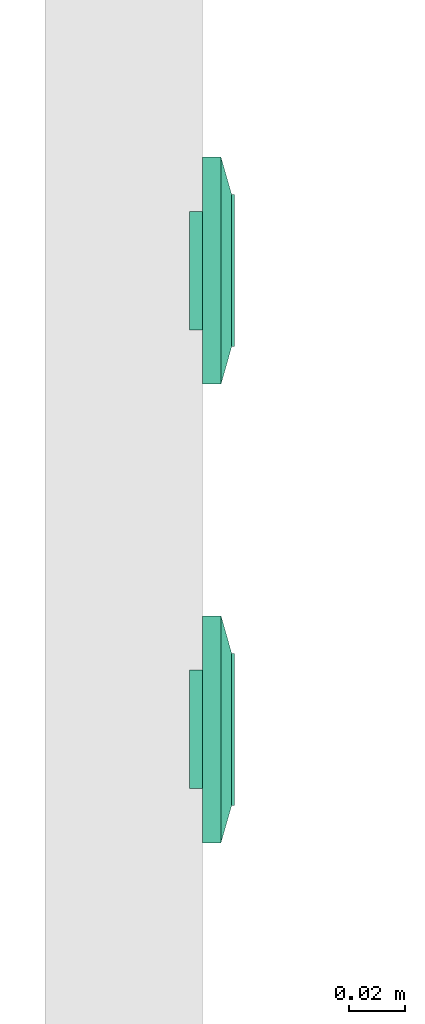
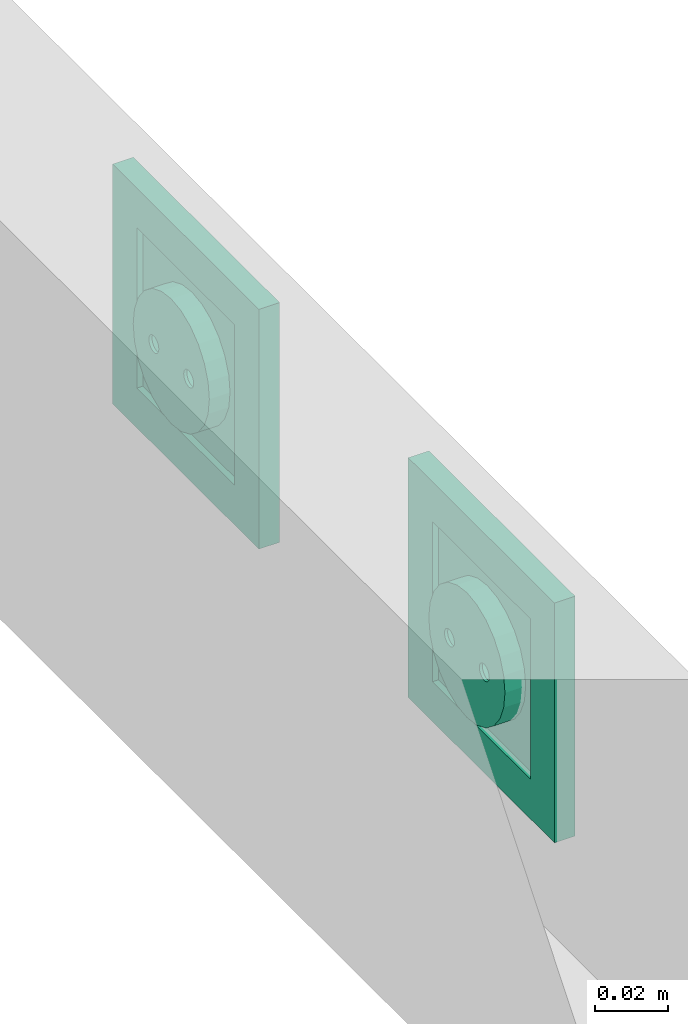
# One storey, part 25 of 166: 2 flow terminals.
"""IFC2X3 building model written with IfcOpenShell, lengths in metres."""

from ifc_helpers import new_model, entity, si_unit, converted_unit, derived_unit, direction, frame, origin, place, context, subcontext, project, spatial, face_set, surface_model, source, transform, mapped, type_object, type_shapes, element, save


model = new_model("IFC2X3")

# Units and contexts
model_context = context("Model", 3, precision=1e-05, world=origin(), true_north=direction((6.12303176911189e-17, 1.0)))
body_context = subcontext(model_context, "Body", "Model", "MODEL_VIEW")
ifc_project = project(units=[si_unit("LENGTHUNIT", "METRE"), si_unit("AREAUNIT", "SQUARE_METRE"), si_unit("VOLUMEUNIT", "CUBIC_METRE"), converted_unit("PLANEANGLEUNIT", "DEGREE", entity("IfcRatioMeasure", 0.0174532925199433), si_unit("PLANEANGLEUNIT", "RADIAN"), dimensions=[0, 0, 0, 0, 0, 0, 0]), si_unit("MASSUNIT", "GRAM", prefix="KILO"), derived_unit("MASSDENSITYUNIT", [(si_unit("MASSUNIT", "GRAM", prefix="KILO"), 1), (si_unit("LENGTHUNIT", "METRE"), -3)]), si_unit("TIMEUNIT", "SECOND"), si_unit("FREQUENCYUNIT", "HERTZ"), si_unit("THERMODYNAMICTEMPERATUREUNIT", "DEGREE_CELSIUS"), derived_unit("THERMALTRANSMITTANCEUNIT", [(si_unit("MASSUNIT", "GRAM", prefix="KILO"), 1), (si_unit("THERMODYNAMICTEMPERATUREUNIT", "KELVIN"), -1), (si_unit("TIMEUNIT", "SECOND"), -3)]), derived_unit("VOLUMETRICFLOWRATEUNIT", [(si_unit("LENGTHUNIT", "METRE"), 3), (si_unit("TIMEUNIT", "SECOND"), -1)]), si_unit("ELECTRICCURRENTUNIT", "AMPERE"), si_unit("ELECTRICVOLTAGEUNIT", "VOLT"), si_unit("POWERUNIT", "WATT"), si_unit("FORCEUNIT", "NEWTON"), si_unit("ILLUMINANCEUNIT", "LUX"), si_unit("LUMINOUSFLUXUNIT", "LUMEN"), si_unit("LUMINOUSINTENSITYUNIT", "CANDELA"), derived_unit("USERDEFINED", [(si_unit("MASSUNIT", "GRAM", prefix="KILO"), -1), (si_unit("LENGTHUNIT", "METRE"), -2), (si_unit("TIMEUNIT", "SECOND"), 3), (si_unit("LUMINOUSFLUXUNIT", "LUMEN"), 1)]), derived_unit("LINEARVELOCITYUNIT", [(si_unit("LENGTHUNIT", "METRE"), 1), (si_unit("TIMEUNIT", "SECOND"), -1)]), si_unit("PRESSUREUNIT", "PASCAL"), derived_unit("USERDEFINED", [(si_unit("LENGTHUNIT", "METRE"), -2), (si_unit("MASSUNIT", "GRAM", prefix="KILO"), 1), (si_unit("TIMEUNIT", "SECOND"), -2)])], contexts=[model_context])

# Site, building, storey
site_placement = place(None, origin())
site = spatial("IfcSite", under=ifc_project, at=site_placement, Name="Default", CompositionType="ELEMENT")
building_placement = place(site_placement, origin())
building = spatial("IfcBuilding", under=site, at=building_placement, CompositionType="ELEMENT")
storey_placement = place(building_placement, frame((0.0, 0.0, 4.27)))
storey = spatial("IfcBuildingStorey", under=building, at=storey_placement, Name="01", CompositionType="ELEMENT", Elevation=4.27)

# Flow terminals
light_fixture_type = type_object("IfcLightFixtureType", Name="PC IP20", PredefinedType="NOTDEFINED")
shared_shape = source(origin(), body_context, "Body", "SurfaceModel", [
    surface_model("IfcFaceBasedSurfaceModel", [(-0.00225000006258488, 0.0127499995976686, 0.00949633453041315), (0.0, 0.0104999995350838, 0.00949633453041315), (0.0, 0.0115376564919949, 0.0101656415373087), (0.0, 0.0139623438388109, 0.0101656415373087), (0.0, 0.0144589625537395, 0.00984531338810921), (0.0, 0.0121178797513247, 0.0102778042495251), (0.0, 0.0133821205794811, 0.0102778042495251), (0.0, 0.0127499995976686, 0.010399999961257), (0.0, 0.0149999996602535, 0.00949633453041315), (0.00225000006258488, 0.0127499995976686, 0.00949633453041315), (0.0, 0.0110410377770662, 0.00984531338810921), (0.0, 0.0127499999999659, 0.00949633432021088), (0.00225000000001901, 0.0127499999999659, 0.00949633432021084), (0.00217333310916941, 0.0121676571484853, 0.00949633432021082), (0.00194855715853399, 0.0116249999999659, 0.00949633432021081), (0.00159099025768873, 0.0111590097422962, 0.00949633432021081), (0.001125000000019, 0.010801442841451, 0.00949633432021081), (0.00058234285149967, 0.0105766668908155, 0.00949633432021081), (0.0, 0.0104999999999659, 0.00949633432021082), (-0.000582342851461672, 0.0105766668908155, 0.00949633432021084), (-0.001124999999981, 0.010801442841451, 0.00949633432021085), (-0.00159099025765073, 0.0111590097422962, 0.00949633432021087), (-0.00194855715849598, 0.011624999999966, 0.00949633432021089), (-0.0021733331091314, 0.0121676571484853, 0.00949633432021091), (-0.00224999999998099, 0.012749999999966, 0.00949633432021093), (-0.00217333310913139, 0.0133323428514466, 0.00949633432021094), (-0.00194855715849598, 0.013874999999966, 0.00949633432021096), (-0.00159099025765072, 0.0143409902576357, 0.00949633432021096), (-0.00112499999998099, 0.0146985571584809, 0.00949633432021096), (-0.00058234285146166, 0.0149233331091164, 0.00949633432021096), (0.0, 0.0149999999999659, 0.00949633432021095), (0.000582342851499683, 0.0149233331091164, 0.00949633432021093), (0.00112500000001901, 0.0146985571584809, 0.00949633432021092), (0.00159099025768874, 0.0143409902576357, 0.00949633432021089), (0.001948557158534, 0.0138749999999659, 0.00949633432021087), (0.00217333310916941, 0.0133323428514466, 0.00949633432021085), (0.00225000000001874, 0.0127499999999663, -0.00360000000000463), (0.00217333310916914, 0.0121676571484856, -0.00360000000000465), (0.00194855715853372, 0.0116249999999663, -0.00360000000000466), (0.00159099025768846, 0.0111590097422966, -0.00360000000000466), (0.00112500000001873, 0.0108014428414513, -0.00360000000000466), (0.000582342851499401, 0.0105766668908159, -0.00360000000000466), (0.0, 0.0104999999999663, -0.00360000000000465), (-0.000582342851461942, 0.0105766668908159, -0.00360000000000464), (-0.00112499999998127, 0.0108014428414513, -0.00360000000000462), (-0.001590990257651, 0.0111590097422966, -0.0036000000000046), (-0.00194855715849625, 0.0116249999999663, -0.00360000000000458), (-0.00217333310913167, 0.0121676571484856, -0.00360000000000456), (-0.00224999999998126, 0.0127499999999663, -0.00360000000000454), (-0.00217333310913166, 0.013332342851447, -0.00360000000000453), (-0.00194855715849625, 0.0138749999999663, -0.00360000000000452), (-0.00159099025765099, 0.014340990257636, -0.00360000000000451), (-0.00112499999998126, 0.0146985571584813, -0.00360000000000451), (-0.000582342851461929, 0.0149233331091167, -0.00360000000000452), (0.0, 0.0149999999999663, -0.00360000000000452), (0.000582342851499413, 0.0149233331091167, -0.00360000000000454), (0.00112500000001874, 0.0146985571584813, -0.00360000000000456), (0.00159099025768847, 0.014340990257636, -0.00360000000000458), (0.00194855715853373, 0.0138749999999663, -0.0036000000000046), (0.00217333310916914, 0.013332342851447, -0.00360000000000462), (0.0270000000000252, 0.026999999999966, 0.0113999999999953), (-0.0269999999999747, 0.026999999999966, 0.0113999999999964), (-0.0269999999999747, -0.0270000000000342, 0.0113999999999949), (0.0270000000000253, -0.0270000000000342, 0.0113999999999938), (-0.0199999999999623, 0.0, 0.0113999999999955), (-0.0193185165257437, -0.00517638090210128, 0.0113999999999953), (-0.0173205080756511, -0.0100000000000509, 0.0113999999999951), (-0.0141421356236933, -0.0141421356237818, 0.011399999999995), (-0.00999999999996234, -0.0173205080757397, 0.0113999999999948), (-0.00517638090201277, -0.0193185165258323, 0.0113999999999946), (0.0, -0.0200000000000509, 0.0113999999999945), (0.00517638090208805, -0.0193185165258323, 0.0113999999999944), (0.0100000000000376, -0.0173205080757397, 0.0113999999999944), (0.0141421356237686, -0.0141421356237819, 0.0113999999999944), (0.0173205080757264, -0.010000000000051, 0.0113999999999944), (0.0193185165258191, -0.00517638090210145, 0.0113999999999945), (0.0200000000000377, 0.0, 0.0113999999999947), (0.0193185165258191, 0.00517638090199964, 0.0113999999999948), (0.0173205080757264, 0.0099999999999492, 0.011399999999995), (0.0141421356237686, 0.0141421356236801, 0.0113999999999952), (0.0100000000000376, 0.0173205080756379, 0.0113999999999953), (0.00517638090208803, 0.0193185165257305, 0.0113999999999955), (0.0, 0.0199999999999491, 0.0113999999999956), (-0.00517638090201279, 0.0193185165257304, 0.0113999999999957), (-0.00999999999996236, 0.0173205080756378, 0.0113999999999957), (-0.0141421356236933, 0.01414213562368, 0.0113999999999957), (-0.0173205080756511, 0.00999999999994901, 0.0113999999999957), (-0.0193185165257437, 0.00517638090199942, 0.0113999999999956), (0.0270000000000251, 0.0269999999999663, 0.00199999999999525), (0.0270000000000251, -0.0270000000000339, 0.00199999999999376), (-0.0269999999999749, -0.0270000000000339, 0.00199999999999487), (-0.0269999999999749, 0.0269999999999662, 0.00199999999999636), (0.0210000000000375, 0.0, 0.00199999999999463), (0.0202844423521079, -0.00543519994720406, 0.00199999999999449), (0.0181865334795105, -0.0105000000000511, 0.0019999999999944), (0.0148492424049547, -0.0148492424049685, 0.00199999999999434), (0.0105000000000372, -0.0181865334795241, 0.00199999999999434), (0.0054351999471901, -0.0202844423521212, 0.00199999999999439), (0.0, -0.0210000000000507, 0.00199999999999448), (-0.00543519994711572, -0.020284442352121, 0.00199999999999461), (-0.0104999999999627, -0.0181865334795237, 0.00199999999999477), (-0.0148492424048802, -0.014849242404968, 0.00199999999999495), (-0.0181865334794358, -0.0105000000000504, 0.00199999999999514), (-0.020284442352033, -0.00543519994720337, 0.00199999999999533), (-0.0209999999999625, 0.0, 0.00199999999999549), (-0.0202844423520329, 0.0054351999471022, 0.00199999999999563), (-0.0181865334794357, 0.0104999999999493, 0.00199999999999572), (-0.01484924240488, 0.0148492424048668, 0.00199999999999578), (-0.0104999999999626, 0.0181865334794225, 0.00199999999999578), (-0.00543519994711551, 0.0202844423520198, 0.00199999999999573), (0.0, 0.0209999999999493, 0.00199999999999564), (0.00543519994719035, 0.0202844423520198, 0.00199999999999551), (0.0105000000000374, 0.0181865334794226, 0.00199999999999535), (0.0148492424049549, 0.0148492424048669, 0.00199999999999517), (0.0181865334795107, 0.0104999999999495, 0.00199999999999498), (0.0202844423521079, 0.00543519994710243, 0.00199999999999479), (0.0200000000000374, 0.0, -0.00360000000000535), (0.0193185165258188, -0.00517638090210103, -0.00360000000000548), (0.0173205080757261, -0.0100000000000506, -0.00360000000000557), (0.0141421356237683, -0.0141421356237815, -0.00360000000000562), (0.0100000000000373, -0.0173205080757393, -0.00360000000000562), (0.00517638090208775, -0.0193185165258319, -0.00360000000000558), (0.0, -0.0200000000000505, -0.00360000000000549), (-0.00517638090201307, -0.0193185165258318, -0.00360000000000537), (-0.00999999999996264, -0.0173205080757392, -0.00360000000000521), (-0.0141421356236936, -0.0141421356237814, -0.00360000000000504), (-0.0173205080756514, -0.0100000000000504, -0.00360000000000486), (-0.019318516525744, -0.00517638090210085, -0.00360000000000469), (-0.0199999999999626, 0.0, -0.00360000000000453), (-0.0193185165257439, 0.00517638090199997, -0.0036000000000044), (-0.0173205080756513, 0.00999999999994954, -0.00360000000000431), (-0.0141421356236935, 0.0141421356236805, -0.00360000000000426), (-0.00999999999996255, 0.0173205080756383, -0.00360000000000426), (-0.00517638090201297, 0.0193185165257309, -0.0036000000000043), (0.0, 0.0199999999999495, -0.00360000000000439), (0.00517638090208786, 0.0193185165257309, -0.00360000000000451), (0.0100000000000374, 0.0173205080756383, -0.00360000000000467), (0.0141421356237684, 0.0141421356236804, -0.00360000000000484), (0.0173205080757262, 0.0099999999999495, -0.00360000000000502), (0.0193185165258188, 0.00517638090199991, -0.00360000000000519), (-0.0123499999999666, 0.0, -0.00360000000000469), (-0.0122562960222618, -0.000711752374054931, -0.00360000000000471), (-0.0119815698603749, -0.00137500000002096, -0.00360000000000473), (-0.0115445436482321, -0.00194454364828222, -0.00360000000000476), (-0.0109749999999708, -0.00238156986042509, -0.00360000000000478), (-0.0103117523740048, -0.00265629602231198, -0.0036000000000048), (-0.00959999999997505, -0.00275000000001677, -0.00360000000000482), (-0.0088882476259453, -0.00265629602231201, -0.00360000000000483), (-0.00822499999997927, -0.00238156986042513, -0.00360000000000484), (-0.00765545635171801, -0.00194454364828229, -0.00360000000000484), (-0.00721843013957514, -0.00137500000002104, -0.00360000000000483), (-0.00694370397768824, -0.000711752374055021, -0.00360000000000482), (-0.00684999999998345, 0.0, -0.0036000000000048), (-0.00694370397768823, 0.000711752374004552, -0.00360000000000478), (-0.00721843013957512, 0.00137499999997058, -0.00360000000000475), (-0.00765545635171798, 0.00194454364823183, -0.00360000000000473), (-0.00822499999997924, 0.00238156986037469, -0.0036000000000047), (-0.00888824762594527, 0.00265629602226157, -0.00360000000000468), (-0.00959999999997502, 0.00274999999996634, -0.00360000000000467), (-0.0103117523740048, 0.00265629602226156, -0.00360000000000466), (-0.0109749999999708, 0.00238156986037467, -0.00360000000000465), (-0.011544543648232, 0.00194454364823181, -0.00360000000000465), (-0.0119815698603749, 0.00137499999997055, -0.00360000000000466), (-0.0122562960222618, 0.000711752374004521, -0.00360000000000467), (0.00685000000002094, 0.0, -0.00360000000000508), (0.0069437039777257, -0.00071175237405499, -0.0036000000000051), (0.00721843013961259, -0.00137500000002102, -0.00360000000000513), (0.00765545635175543, -0.00194454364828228, -0.00360000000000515), (0.00822500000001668, -0.00238156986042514, -0.00360000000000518), (0.00888824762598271, -0.00265629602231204, -0.0036000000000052), (0.00960000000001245, -0.00275000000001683, -0.00360000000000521), (0.0103117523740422, -0.00265629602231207, -0.00360000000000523), (0.0109750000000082, -0.00238156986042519, -0.00360000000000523), (0.0115445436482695, -0.00194454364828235, -0.00360000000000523), (0.0119815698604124, -0.0013750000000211, -0.00360000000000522), (0.0122562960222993, -0.00071175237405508, -0.00360000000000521), (0.012350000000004, 0.0, -0.00360000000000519), (0.0122562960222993, 0.000711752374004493, -0.00360000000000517), (0.0119815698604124, 0.00137499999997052, -0.00360000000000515), (0.0115445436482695, 0.00194454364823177, -0.00360000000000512), (0.0109750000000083, 0.00238156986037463, -0.0036000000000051), (0.0103117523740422, 0.00265629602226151, -0.00360000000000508), (0.00960000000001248, 0.00274999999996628, -0.00360000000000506), (0.00888824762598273, 0.0026562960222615, -0.00360000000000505), (0.0082250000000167, 0.00238156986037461, -0.00360000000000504), (0.00765545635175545, 0.00194454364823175, -0.00360000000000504), (0.0072184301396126, 0.00137499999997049, -0.00360000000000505), (0.00694370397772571, 0.000711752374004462, -0.00360000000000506), (0.0210000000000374, 0.0, -0.00460000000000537), (0.0202844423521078, -0.00543519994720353, -0.00460000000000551), (0.0181865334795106, -0.0105000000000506, -0.0046000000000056), (0.0148492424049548, -0.0148492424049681, -0.00460000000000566), (0.0105000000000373, -0.0181865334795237, -0.00460000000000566), (0.00543519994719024, -0.0202844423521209, -0.00460000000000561), (0.0, -0.0210000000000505, -0.00460000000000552), (-0.00543519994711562, -0.0202844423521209, -0.00460000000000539), (-0.0104999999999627, -0.0181865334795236, -0.00460000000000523), (-0.0148492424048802, -0.0148492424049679, -0.00460000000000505), (-0.0181865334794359, -0.0105000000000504, -0.00460000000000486), (-0.0202844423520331, -0.00543519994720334, -0.00460000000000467), (-0.0209999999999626, 0.0, -0.00460000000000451), (-0.020284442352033, 0.00543519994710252, -0.00460000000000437), (-0.0181865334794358, 0.0104999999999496, -0.00460000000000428), (-0.0148492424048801, 0.0148492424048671, -0.00460000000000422), (-0.0104999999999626, 0.0181865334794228, -0.00460000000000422), (-0.00543519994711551, 0.02028444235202, -0.00460000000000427), (0.0, 0.0209999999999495, -0.00460000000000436), (0.00543519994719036, 0.02028444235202, -0.00460000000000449), (0.0105000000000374, 0.0181865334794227, -0.00460000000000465), (0.0148492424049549, 0.014849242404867, -0.00460000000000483), (0.0181865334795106, 0.0104999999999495, -0.00460000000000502), (0.0202844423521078, 0.00543519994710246, -0.00460000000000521), (-0.00684999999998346, 0.0, -0.0046000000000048), (-0.00694370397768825, 0.000711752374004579, -0.00460000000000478), (-0.00721843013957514, 0.00137499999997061, -0.00460000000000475), (-0.007655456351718, 0.00194454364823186, -0.00460000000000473), (-0.00822499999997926, 0.00238156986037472, -0.0046000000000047), (-0.00888824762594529, 0.0026562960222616, -0.00460000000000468), (-0.00959999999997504, 0.00274999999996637, -0.00460000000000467), (-0.0103117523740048, 0.00265629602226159, -0.00460000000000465), (-0.0109749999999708, 0.0023815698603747, -0.00460000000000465), (-0.0115445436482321, 0.00194454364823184, -0.00460000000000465), (-0.0119815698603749, 0.00137499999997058, -0.00460000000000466), (-0.0122562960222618, 0.000711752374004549, -0.00460000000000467), (-0.0123499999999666, 0.0, -0.00460000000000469), (-0.0122562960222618, -0.000711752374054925, -0.00460000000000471), (-0.0119815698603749, -0.00137500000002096, -0.00460000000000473), (-0.0115445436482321, -0.00194454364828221, -0.00460000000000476), (-0.0109749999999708, -0.00238156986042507, -0.00460000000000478), (-0.0103117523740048, -0.00265629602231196, -0.0046000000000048), (-0.00959999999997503, -0.00275000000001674, -0.00460000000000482), (-0.00888824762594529, -0.00265629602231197, -0.00460000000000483), (-0.00822499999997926, -0.00238156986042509, -0.00460000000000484), (-0.007655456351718, -0.00194454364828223, -0.00460000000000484), (-0.00721843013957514, -0.00137500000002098, -0.00460000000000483), (-0.00694370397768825, -0.000711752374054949, -0.00460000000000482), (0.012350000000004, 0.0, -0.00460000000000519), (0.0122562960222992, 0.000711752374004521, -0.00460000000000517), (0.0119815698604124, 0.00137499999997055, -0.00460000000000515), (0.0115445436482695, 0.0019445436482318, -0.00460000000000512), (0.0109750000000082, 0.00238156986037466, -0.0046000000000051), (0.0103117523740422, 0.00265629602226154, -0.00460000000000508), (0.00960000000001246, 0.00274999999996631, -0.00460000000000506), (0.00888824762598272, 0.00265629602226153, -0.00460000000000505), (0.00822500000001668, 0.00238156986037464, -0.00460000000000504), (0.00765545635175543, 0.00194454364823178, -0.00460000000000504), (0.00721843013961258, 0.00137499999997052, -0.00460000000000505), (0.00694370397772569, 0.00071175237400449, -0.00460000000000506), (0.00685000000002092, 0.0, -0.00460000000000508), (0.00694370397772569, -0.000711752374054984, -0.0046000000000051), (0.00721843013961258, -0.00137500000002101, -0.00460000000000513), (0.00765545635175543, -0.00194454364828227, -0.00460000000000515), (0.00822500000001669, -0.00238156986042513, -0.00460000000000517), (0.00888824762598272, -0.00265629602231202, -0.0046000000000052), (0.00960000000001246, -0.0027500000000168, -0.00460000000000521), (0.0103117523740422, -0.00265629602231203, -0.00460000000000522), (0.0109750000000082, -0.00238156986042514, -0.00460000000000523), (0.0115445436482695, -0.00194454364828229, -0.00460000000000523), (0.0119815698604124, -0.00137500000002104, -0.00460000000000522), (0.0122562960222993, -0.000711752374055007, -0.00460000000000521), (0.040350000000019, 0.0403499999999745, 0.00659999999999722), (0.040350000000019, -0.0403500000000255, 0.00659999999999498), (-0.0403499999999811, -0.0403500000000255, 0.00659999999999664), (-0.0403499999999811, 0.0403499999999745, 0.00659999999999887), (0.027000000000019, 0.0269999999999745, 0.00659999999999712), (-0.0269999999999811, 0.0269999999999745, 0.00659999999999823), (-0.026999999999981, -0.0270000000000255, 0.00659999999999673), (0.027000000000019, -0.0270000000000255, 0.00659999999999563), (0.027000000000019, 0.0269999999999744, 0.0103999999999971), (-0.026999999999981, 0.0269999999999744, 0.0103999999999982), (-0.026999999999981, -0.0270000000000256, 0.0103999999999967), (0.027000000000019, -0.0270000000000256, 0.0103999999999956), (0.040350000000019, 0.0403499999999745, 0.00659999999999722), (0.040350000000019, -0.0403500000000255, 0.00659999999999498), (-0.0403499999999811, -0.0403500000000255, 0.00659999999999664), (-0.0403499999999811, 0.0403499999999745, 0.00659999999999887), (-0.0269999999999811, 0.0269999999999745, 0.00659999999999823), (-0.0269999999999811, -0.0270000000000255, 0.00659999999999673), (0.0270000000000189, -0.0270000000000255, 0.00659999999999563), (0.0270000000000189, 0.0269999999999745, 0.00659999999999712), (0.0403500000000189, 0.0403499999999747, 0.0), (0.0403500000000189, -0.0403500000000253, 0.0), (-0.0403499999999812, -0.0403500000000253, 0.0), (-0.0403499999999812, 0.0403499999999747, 0.0), (0.0270000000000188, 0.0269999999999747, 0.0), (-0.0269999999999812, 0.0269999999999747, 0.0), (-0.0269999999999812, -0.0270000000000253, 0.0), (0.0270000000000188, -0.0270000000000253, 0.0)], [face_set([[[0, 1, 2]], [[3, 4, 2, 5]], [[6, 3, 5, 7]], [[2, 4, 0]], [[4, 8, 0]], [[3, 9, 8]], [[1, 9, 10]], [[2, 3, 6, 7]], [[3, 10, 9]], [[2, 10, 3]], [[11, 1, 0, 8]], [[11, 8, 9, 1]]]), face_set([[[12, 13, 14, 15, 16, 17, 18, 19, 20, 21, 22, 23, 24, 25, 26, 27, 28, 29, 30, 31, 32, 33, 34, 35]], [[36, 37, 38, 39, 40, 41, 42, 43, 44, 45, 46, 47, 48, 49, 50, 51, 52, 53, 54, 55, 56, 57, 58, 59]], [[48, 47, 23, 24]], [[47, 46, 22, 23]], [[45, 44, 20, 21]], [[46, 45, 21, 22]], [[44, 43, 19, 20]], [[18, 19, 43, 42]], [[42, 41, 17, 18]], [[41, 40, 16, 17]], [[39, 38, 14, 15]], [[40, 39, 15, 16]], [[38, 37, 13, 14]], [[12, 13, 37, 36]], [[36, 59, 35, 12]], [[59, 58, 34, 35]], [[57, 56, 32, 33]], [[58, 57, 33, 34]], [[56, 55, 31, 32]], [[30, 31, 55, 54]], [[54, 53, 29, 30]], [[53, 52, 28, 29]], [[51, 50, 26, 27]], [[52, 51, 27, 28]], [[50, 49, 25, 26]], [[24, 25, 49, 48]]]), face_set([[[60, 61, 62, 63], [64, 65, 66, 67, 68, 69, 70, 71, 72, 73, 74, 75, 76, 77, 78, 79, 80, 81, 82, 83, 84, 85, 86, 87]], [[88, 89, 90, 91], [92, 93, 94, 95, 96, 97, 98, 99, 100, 101, 102, 103, 104, 105, 106, 107, 108, 109, 110, 111, 112, 113, 114, 115]], [[61, 60, 88, 91]], [[62, 61, 91, 90]], [[63, 62, 90, 89]], [[60, 63, 89, 88]], [[116, 117, 118, 119, 120, 121, 122, 123, 124, 125, 126, 127, 128, 129, 130, 131, 132, 133, 134, 135, 136, 137, 138, 139], [140, 141, 142, 143, 144, 145, 146, 147, 148, 149, 150, 151, 152, 153, 154, 155, 156, 157, 158, 159, 160, 161, 162, 163], [164, 165, 166, 167, 168, 169, 170, 171, 172, 173, 174, 175, 176, 177, 178, 179, 180, 181, 182, 183, 184, 185, 186, 187]], [[64, 128, 127, 65]], [[65, 127, 126, 66]], [[67, 125, 124, 68]], [[66, 126, 125, 67]], [[68, 124, 123, 69]], [[122, 70, 69, 123]], [[70, 122, 121, 71]], [[71, 121, 120, 72]], [[73, 119, 118, 74]], [[72, 120, 119, 73]], [[74, 118, 117, 75]], [[116, 76, 75, 117]], [[76, 116, 139, 77]], [[77, 139, 138, 78]], [[79, 137, 136, 80]], [[78, 138, 137, 79]], [[80, 136, 135, 81]], [[134, 82, 81, 135]], [[82, 134, 133, 83]], [[83, 133, 132, 84]], [[84, 132, 131, 85]], [[85, 131, 130, 86]], [[130, 129, 87, 86]], [[64, 87, 129, 128]], [[188, 189, 190, 191, 192, 193, 194, 195, 196, 197, 198, 199, 200, 201, 202, 203, 204, 205, 206, 207, 208, 209, 210, 211], [212, 213, 214, 215, 216, 217, 218, 219, 220, 221, 222, 223, 224, 225, 226, 227, 228, 229, 230, 231, 232, 233, 234, 235], [236, 237, 238, 239, 240, 241, 242, 243, 244, 245, 246, 247, 248, 249, 250, 251, 252, 253, 254, 255, 256, 257, 258, 259]], [[200, 199, 103, 104]], [[199, 198, 102, 103]], [[197, 196, 100, 101]], [[198, 197, 101, 102]], [[196, 195, 99, 100]], [[98, 99, 195, 194]], [[194, 193, 97, 98]], [[193, 192, 96, 97]], [[191, 190, 94, 95]], [[192, 191, 95, 96]], [[190, 189, 93, 94]], [[92, 93, 189, 188]], [[188, 211, 115, 92]], [[211, 210, 114, 115]], [[209, 208, 112, 113]], [[210, 209, 113, 114]], [[208, 207, 111, 112]], [[110, 111, 207, 206]], [[206, 205, 109, 110]], [[205, 204, 108, 109]], [[203, 202, 106, 107]], [[204, 203, 107, 108]], [[202, 201, 105, 106]], [[104, 105, 201, 200]], [[141, 225, 226, 142]], [[140, 224, 225, 141]], [[144, 228, 229, 145]], [[143, 227, 228, 144]], [[142, 226, 227, 143]], [[230, 146, 145, 229]], [[149, 233, 232, 148]], [[148, 232, 231, 147]], [[152, 212, 235, 151]], [[151, 235, 234, 150]], [[150, 234, 233, 149]], [[146, 230, 231, 147]], [[154, 214, 213, 153]], [[153, 213, 212, 152]], [[157, 217, 216, 156]], [[156, 216, 215, 155]], [[155, 215, 214, 154]], [[218, 158, 157, 217]], [[160, 220, 221, 161]], [[159, 219, 220, 160]], [[163, 223, 224, 140]], [[162, 222, 223, 163]], [[161, 221, 222, 162]], [[158, 218, 219, 159]], [[166, 250, 249, 165]], [[165, 249, 248, 164]], [[169, 253, 252, 168]], [[168, 252, 251, 167]], [[167, 251, 250, 166]], [[254, 170, 169, 253]], [[172, 256, 257, 173]], [[171, 255, 256, 172]], [[175, 259, 236, 176]], [[174, 258, 259, 175]], [[173, 257, 258, 174]], [[170, 254, 255, 171]], [[177, 237, 238, 178]], [[176, 236, 237, 177]], [[180, 240, 241, 181]], [[179, 239, 240, 180]], [[178, 238, 239, 179]], [[242, 182, 181, 241]], [[185, 245, 244, 184]], [[184, 244, 243, 183]], [[164, 248, 247, 187]], [[187, 247, 246, 186]], [[186, 246, 245, 185]], [[182, 242, 243, 183]]]), face_set([[[260, 261, 262, 263], [264, 265, 266, 267]], [[260, 268, 269, 263]], [[263, 269, 270, 262]], [[262, 270, 271, 261]], [[261, 271, 268, 260]], [[264, 265, 269, 268]], [[265, 266, 270, 269]], [[266, 267, 271, 270]], [[268, 271, 267, 264]]]), face_set([[[272, 273, 274, 275], [276, 277, 278, 279]], [[280, 281, 282, 283], [284, 285, 286, 287]], [[275, 272, 280, 283]], [[274, 275, 283, 282]], [[273, 274, 282, 281]], [[272, 273, 281, 280]], [[284, 285, 276, 279]], [[285, 286, 277, 276]], [[286, 287, 278, 277]], [[279, 278, 287, 284]]])]),
])
type_shapes(light_fixture_type, [shared_shape])
for number, where, z_axis, x_axis in (
    (1, (26.1797436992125, -188.982663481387, 4.70800000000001), (1.0, 0.0, 0.0), (0.0, 1.0, 0.0)),
    (2, (26.1797436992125, -188.819663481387, 4.70800000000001), (1.0, 0.0, 0.0), (0.0, 1.0, 0.0)),
):
    element("IfcFlowTerminal", number, at=place(building_placement, frame(where, z_axis=z_axis, x_axis=x_axis)), inside=storey, type_object=light_fixture_type, Name="INT Prise de courant:PC IP20", ObjectType="INT Prise de courant:PC IP20", context=body_context, shape_type="MappedRepresentation", body=[
        mapped(shared_shape, transform((0.0, 0.0, 0.0), scale=1.0)),
    ])

save(model, "model.ifc")
